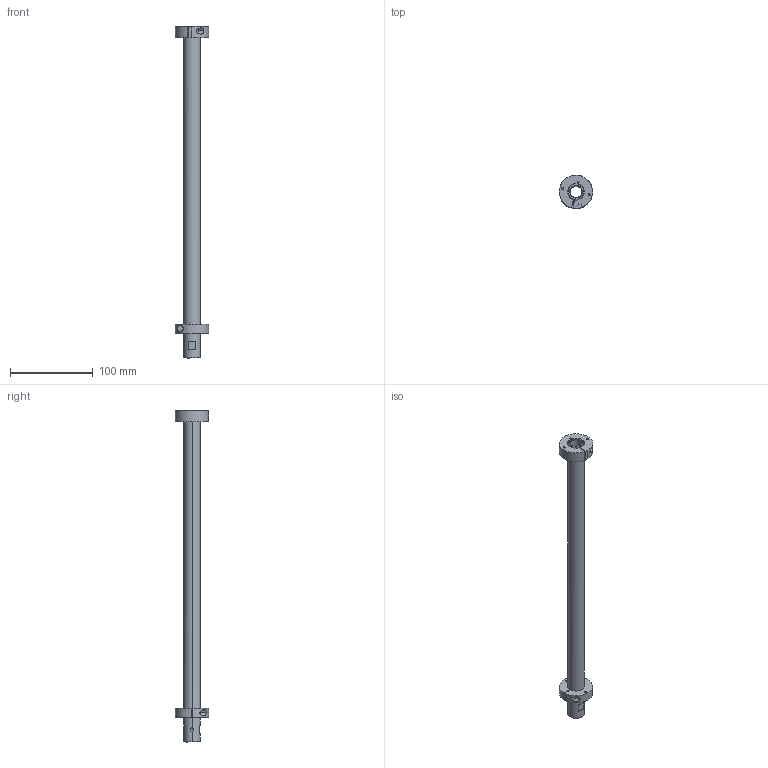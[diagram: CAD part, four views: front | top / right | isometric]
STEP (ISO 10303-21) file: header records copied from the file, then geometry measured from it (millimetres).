
FILE_DESCRIPTION (( 'STEP AP214' ), '1' );
FILE_NAME ('Link3_C550.STEP', '2019-03-25T02:59:44', ( 'ABB' ), ( 'ABB' ), 'SwSTEP 2.0', 'SolidWorks 2016', '' );
FILE_SCHEMA (( 'AUTOMOTIVE_DESIGN' ));
Length unit declared in the file: millimetre
Products named in the file (1): Link3_C550
Bounding box: 40 x 40 x 400 mm (x, y, z)
Volume: 84730.3 mm3; surface area: 49984.3 mm2
Topology: 1 solids, 1 shells, 77 faces, 227 edges, 155 vertices
Faces by surface type: cylinder 35, plane 32, cone 10
Entity records: 4116 total; most frequent: CARTESIAN_POINT 2107, ORIENTED_EDGE 450, DIRECTION 351, EDGE_CURVE 225, VERTEX_POINT 155, AXIS2_PLACEMENT_3D 132, EDGE_LOOP 96, VECTOR 87
